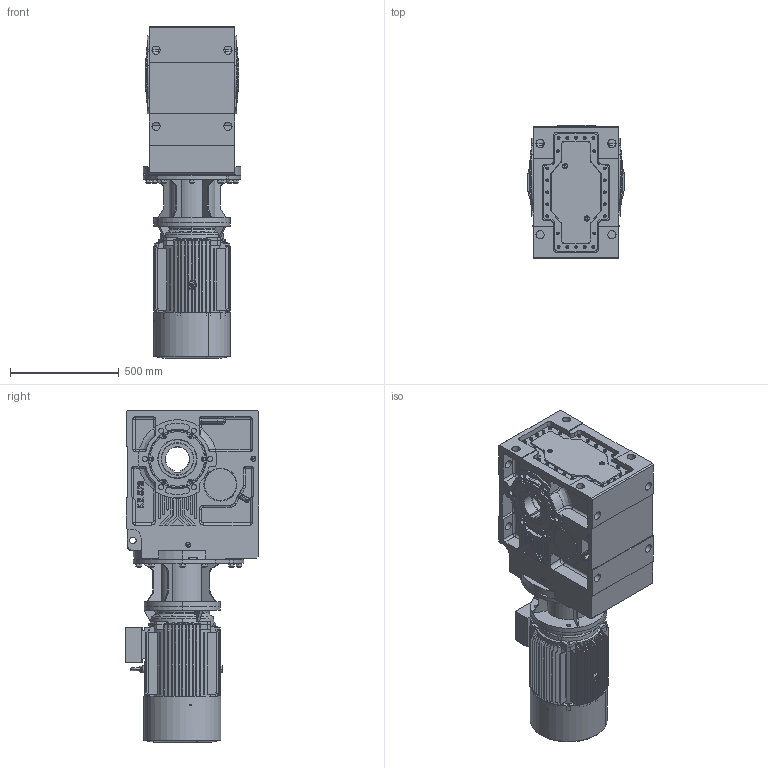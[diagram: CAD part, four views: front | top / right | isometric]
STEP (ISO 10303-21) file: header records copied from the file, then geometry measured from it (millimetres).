
FILE_DESCRIPTION (( 'STEP AP203' ), '1' );
FILE_NAME ('KV_873_0_M3-180L-4.STEP', '2019-07-18T08:56:31', ( '' ), ( '' ), 'SwSTEP 2.0', 'SolidWorks 2012', '' );
FILE_SCHEMA (( 'CONFIG_CONTROL_DESIGN' ));
Products named in the file (12): KV_873_0_M3-180L-4; M3-180L-FF-B5; Y2-180-4.6.8-ª+---®+_-++ñ; Y2-180C++A+¦-¯ª¦+¦_-++ñ; Y2-180-4.6.8+ª-¯ª­-È®+_-++ñ; Y2-180+¦i-_-++ñ; Y2-180LB5+À+¿_-++ñ; KN_87_3_0_A-B18_B5_ML23A_0_0_0_0_0_0_0_0_0_0_0_0_M1; Eyebolts GB_GB_FASTENER_SCREWS_FRS M12; 83A180B5_Varsayìlan; ML23A_Varsayìlan; K873_Varsayìlan
Assembly tree (11 placements, depth 3):
  KV_873_0_M3-180L-4
    KN_87_3_0_A-B18_B5_ML23A_0_0_0_0_0_0_0_0_0_0_0_0_M1
      K873_Varsayìlan
      83A180B5_Varsayìlan
      ML23A_Varsayìlan
    M3-180L-FF-B5
      Eyebolts GB_GB_FASTENER_SCREWS_FRS M12
      Y2-180LB5+À+¿_-++ñ
      Y2-180+¦i-_-++ñ
      Y2-180-4.6.8-ª+---®+_-++ñ
      Y2-180C++A+¦-¯ª¦+¦_-++ñ
      Y2-180-4.6.8+ª-¯ª­-È®+_-++ñ
Bounding box: 450 x 616.09 x 1526.5 mm (x, y, z)
Volume: 25664185 mm3; surface area: 6949115.2 mm2
Topology: 9 solids, 56 shells, 3188 faces, 8083 edges, 5113 vertices
Faces by surface type: plane 1384, cylinder 911, cone 543, bspline 314, torus 36
Entity records: 116197 total; most frequent: CARTESIAN_POINT 39695, ORIENTED_EDGE 15950, DIRECTION 15413, EDGE_CURVE 7995, AXIS2_PLACEMENT_3D 5701, VERTEX_POINT 5106, LINE 4011, VECTOR 4011
